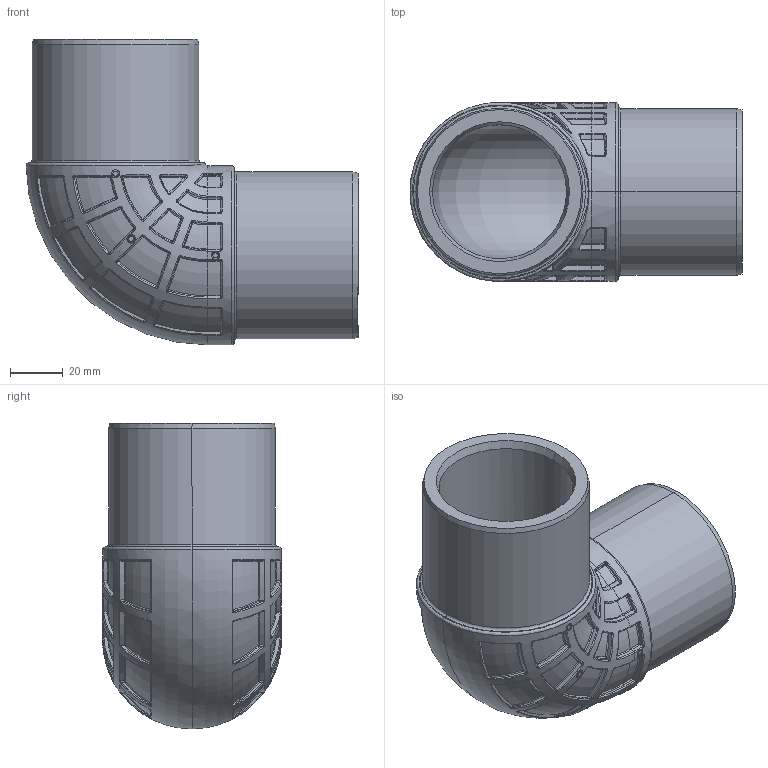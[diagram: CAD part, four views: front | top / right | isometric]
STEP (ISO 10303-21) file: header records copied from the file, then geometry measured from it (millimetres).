
FILE_DESCRIPTION (( 'STEP AP214' ), '1' );
FILE_NAME ('KP_3-63EC-C.STEP', '2012-12-14T10:54:22', ( '' ), ( '' ), 'SwSTEP 2.0', 'SolidWorks 2012', '' );
FILE_SCHEMA (( 'AUTOMOTIVE_DESIGN' ));
Length unit declared in the file: millimetre
Products named in the file (1): KP_3-63EC-C
Bounding box: 126.09 x 68 x 116.1 mm (x, y, z)
Volume: 202055 mm3; surface area: 62474.2 mm2
Topology: 1 solids, 1 shells, 828 faces, 1871 edges, 1053 vertices
Faces by surface type: bspline 278, cylinder 239, torus 159, plane 97, sphere 47, cone 8
Entity records: 32229 total; most frequent: CARTESIAN_POINT 15796, ORIENTED_EDGE 3672, DIRECTION 3162, EDGE_CURVE 1836, AXIS2_PLACEMENT_3D 1404, VERTEX_POINT 1035, EDGE_LOOP 855, CIRCLE 853
